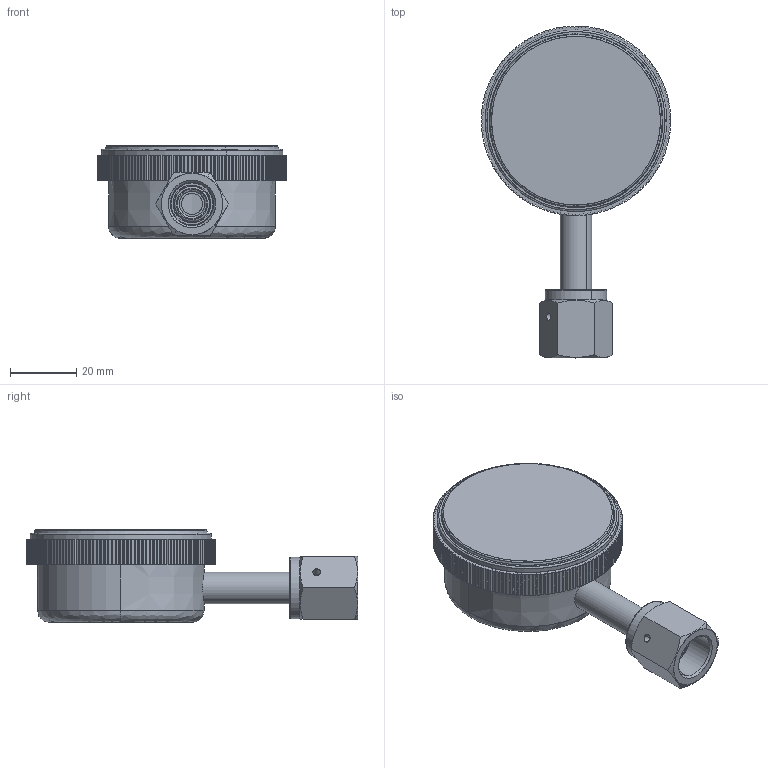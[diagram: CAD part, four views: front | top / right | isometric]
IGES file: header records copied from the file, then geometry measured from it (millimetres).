
Start section: SolidWorks IGES file using analytic representation for surfaces
Global section: file name: C:\Users\hmei\OneDrive - Illinois Tool Works, Inc\Documents\#Project\Gauge\HAI'S PRESSURE GAUGE\S20-SF.IGS; native system: SolidWorks 2023; preprocessor: SolidWorks 2023; author: HMei; date: 250304.143101; units: millimetre
Bounding box: 57.2 x 100.2 x 28 mm (x, y, z)
Surface area: 26779.4 mm2 (no closed solid volume)
Topology: 0 solids, 0 shells, 613 faces, 5029 edges, 5029 vertices
Faces by surface type: bspline 374, revolution 239
